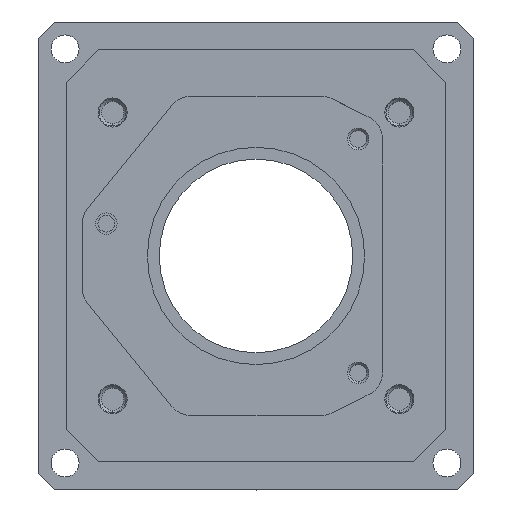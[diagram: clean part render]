
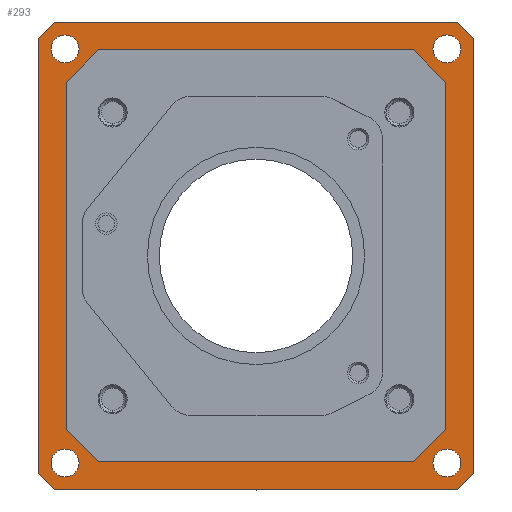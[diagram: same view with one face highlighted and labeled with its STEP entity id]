
A CAD part, top view. The second image highlights one B-rep face of the part: STEP entity #293.
In plain terms, the highlighted planar face has unit normal (0, 0, 1).
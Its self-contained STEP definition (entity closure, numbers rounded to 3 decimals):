
#190=FACE_BOUND('',#643,.F.);
#191=FACE_BOUND('',#644,.F.);
#192=FACE_BOUND('',#645,.F.);
#193=FACE_BOUND('',#646,.F.);
#194=FACE_BOUND('',#647,.F.);
#227=PLANE('',#3051);
#293=ADVANCED_FACE('',(#190,#191,#192,#193,#194,#468),#227,.T.);
#468=FACE_OUTER_BOUND('',#648,.F.);
#643=EDGE_LOOP('',(#866,#867));
#644=EDGE_LOOP('',(#868,#869));
#645=EDGE_LOOP('',(#870,#871));
#646=EDGE_LOOP('',(#872,#873));
#647=EDGE_LOOP('',(#874,#875,#876,#877,#878,#879,#880,#881));
#648=EDGE_LOOP('',(#882,#883,#884,#885,#886,#887,#888,#889));
#866=ORIENTED_EDGE('',*,*,#2274,.T.);
#867=ORIENTED_EDGE('',*,*,#2275,.T.);
#868=ORIENTED_EDGE('',*,*,#2270,.T.);
#869=ORIENTED_EDGE('',*,*,#2271,.T.);
#870=ORIENTED_EDGE('',*,*,#2268,.T.);
#871=ORIENTED_EDGE('',*,*,#2269,.T.);
#872=ORIENTED_EDGE('',*,*,#2272,.T.);
#873=ORIENTED_EDGE('',*,*,#2273,.T.);
#874=ORIENTED_EDGE('',*,*,#2284,.T.);
#875=ORIENTED_EDGE('',*,*,#2283,.T.);
#876=ORIENTED_EDGE('',*,*,#2282,.T.);
#877=ORIENTED_EDGE('',*,*,#2281,.T.);
#878=ORIENTED_EDGE('',*,*,#2280,.T.);
#879=ORIENTED_EDGE('',*,*,#2279,.T.);
#880=ORIENTED_EDGE('',*,*,#2278,.T.);
#881=ORIENTED_EDGE('',*,*,#2285,.T.);
#882=ORIENTED_EDGE('',*,*,#2263,.F.);
#883=ORIENTED_EDGE('',*,*,#2264,.T.);
#884=ORIENTED_EDGE('',*,*,#2261,.F.);
#885=ORIENTED_EDGE('',*,*,#2265,.T.);
#886=ORIENTED_EDGE('',*,*,#2262,.F.);
#887=ORIENTED_EDGE('',*,*,#2266,.T.);
#888=ORIENTED_EDGE('',*,*,#2260,.F.);
#889=ORIENTED_EDGE('',*,*,#2267,.T.);
#1660=LINE('',#4489,#1864);
#1661=LINE('',#4490,#1865);
#1662=LINE('',#4491,#1866);
#1663=LINE('',#4492,#1867);
#1664=LINE('',#4493,#1868);
#1665=LINE('',#4494,#1869);
#1666=LINE('',#4495,#1870);
#1667=LINE('',#4496,#1871);
#1668=LINE('',#4507,#1872);
#1669=LINE('',#4508,#1873);
#1670=LINE('',#4509,#1874);
#1671=LINE('',#4510,#1875);
#1672=LINE('',#4511,#1876);
#1673=LINE('',#4512,#1877);
#1674=LINE('',#4513,#1878);
#1675=LINE('',#4514,#1879);
#1864=VECTOR('',#3297,40.5);
#1865=VECTOR('',#3298,40.5);
#1866=VECTOR('',#3299,37.5);
#1867=VECTOR('',#3300,37.5);
#1868=VECTOR('',#3301,2.121);
#1869=VECTOR('',#3302,2.121);
#1870=VECTOR('',#3303,2.121);
#1871=VECTOR('',#3304,2.121);
#1872=VECTOR('',#3325,4.243);
#1873=VECTOR('',#3326,29.3);
#1874=VECTOR('',#3327,4.243);
#1875=VECTOR('',#3328,32.3);
#1876=VECTOR('',#3329,4.243);
#1877=VECTOR('',#3330,29.3);
#1878=VECTOR('',#3331,4.243);
#1879=VECTOR('',#3332,32.3);
#2071=CIRCLE('',#2929,1.3);
#2072=CIRCLE('',#2930,1.3);
#2073=CIRCLE('',#2931,1.3);
#2074=CIRCLE('',#2932,1.3);
#2075=CIRCLE('',#2933,1.3);
#2076=CIRCLE('',#2934,1.3);
#2077=CIRCLE('',#2935,1.3);
#2078=CIRCLE('',#2936,1.3);
#2260=EDGE_CURVE('',#2855,#2854,#1660,.T.);
#2261=EDGE_CURVE('',#2853,#2852,#1661,.T.);
#2262=EDGE_CURVE('',#2851,#2850,#1662,.T.);
#2263=EDGE_CURVE('',#2849,#2848,#1663,.T.);
#2264=EDGE_CURVE('',#2849,#2852,#1664,.T.);
#2265=EDGE_CURVE('',#2853,#2850,#1665,.T.);
#2266=EDGE_CURVE('',#2851,#2854,#1666,.T.);
#2267=EDGE_CURVE('',#2855,#2848,#1667,.T.);
#2268=EDGE_CURVE('',#2847,#2846,#2071,.T.);
#2269=EDGE_CURVE('',#2846,#2847,#2072,.T.);
#2270=EDGE_CURVE('',#2845,#2844,#2073,.T.);
#2271=EDGE_CURVE('',#2844,#2845,#2074,.T.);
#2272=EDGE_CURVE('',#2843,#2842,#2075,.T.);
#2273=EDGE_CURVE('',#2842,#2843,#2076,.T.);
#2274=EDGE_CURVE('',#2841,#2840,#2077,.T.);
#2275=EDGE_CURVE('',#2840,#2841,#2078,.T.);
#2278=EDGE_CURVE('',#2837,#2836,#1668,.T.);
#2279=EDGE_CURVE('',#2835,#2837,#1669,.T.);
#2280=EDGE_CURVE('',#2834,#2835,#1670,.T.);
#2281=EDGE_CURVE('',#2833,#2834,#1671,.T.);
#2282=EDGE_CURVE('',#2832,#2833,#1672,.T.);
#2283=EDGE_CURVE('',#2831,#2832,#1673,.T.);
#2284=EDGE_CURVE('',#2830,#2831,#1674,.T.);
#2285=EDGE_CURVE('',#2836,#2830,#1675,.T.);
#2830=VERTEX_POINT('',#4384);
#2831=VERTEX_POINT('',#4385);
#2832=VERTEX_POINT('',#4386);
#2833=VERTEX_POINT('',#4387);
#2834=VERTEX_POINT('',#4388);
#2835=VERTEX_POINT('',#4389);
#2836=VERTEX_POINT('',#4390);
#2837=VERTEX_POINT('',#4391);
#2840=VERTEX_POINT('',#4394);
#2841=VERTEX_POINT('',#4395);
#2842=VERTEX_POINT('',#4396);
#2843=VERTEX_POINT('',#4397);
#2844=VERTEX_POINT('',#4398);
#2845=VERTEX_POINT('',#4399);
#2846=VERTEX_POINT('',#4400);
#2847=VERTEX_POINT('',#4401);
#2848=VERTEX_POINT('',#4402);
#2849=VERTEX_POINT('',#4403);
#2850=VERTEX_POINT('',#4404);
#2851=VERTEX_POINT('',#4405);
#2852=VERTEX_POINT('',#4406);
#2853=VERTEX_POINT('',#4407);
#2854=VERTEX_POINT('',#4408);
#2855=VERTEX_POINT('',#4409);
#2929=AXIS2_PLACEMENT_3D('',#4497,#3305,#3306);
#2930=AXIS2_PLACEMENT_3D('',#4498,#3307,#3308);
#2931=AXIS2_PLACEMENT_3D('',#4499,#3309,#3310);
#2932=AXIS2_PLACEMENT_3D('',#4500,#3311,#3312);
#2933=AXIS2_PLACEMENT_3D('',#4501,#3313,#3314);
#2934=AXIS2_PLACEMENT_3D('',#4502,#3315,#3316);
#2935=AXIS2_PLACEMENT_3D('',#4503,#3317,#3318);
#2936=AXIS2_PLACEMENT_3D('',#4504,#3319,#3320);
#3051=AXIS2_PLACEMENT_3D('',#4839,#3705,#3706);
#3297=DIRECTION('',(0.,1.,0.));
#3298=DIRECTION('',(0.,-1.,0.));
#3299=DIRECTION('',(-1.,0.,0.));
#3300=DIRECTION('',(1.,0.,0.));
#3301=DIRECTION('',(-0.707,0.707,0.));
#3302=DIRECTION('',(0.707,0.707,0.));
#3303=DIRECTION('',(0.707,-0.707,0.));
#3304=DIRECTION('',(-0.707,-0.707,0.));
#3305=DIRECTION('',(0.,0.,1.));
#3306=DIRECTION('',(0.,1.,0.));
#3307=DIRECTION('',(0.,0.,1.));
#3308=DIRECTION('',(0.,-1.,0.));
#3309=DIRECTION('',(0.,0.,1.));
#3310=DIRECTION('',(1.,0.,0.));
#3311=DIRECTION('',(0.,0.,1.));
#3312=DIRECTION('',(-1.,0.,0.));
#3313=DIRECTION('',(0.,0.,1.));
#3314=DIRECTION('',(-1.,0.,0.));
#3315=DIRECTION('',(0.,0.,1.));
#3316=DIRECTION('',(1.,0.,0.));
#3317=DIRECTION('',(0.,0.,1.));
#3318=DIRECTION('',(0.,-1.,0.));
#3319=DIRECTION('',(0.,0.,1.));
#3320=DIRECTION('',(0.,1.,0.));
#3325=DIRECTION('',(0.707,0.707,0.));
#3326=DIRECTION('',(1.,0.,0.));
#3327=DIRECTION('',(0.707,-0.707,0.));
#3328=DIRECTION('',(0.,-1.,0.));
#3329=DIRECTION('',(-0.707,-0.707,0.));
#3330=DIRECTION('',(-1.,0.,0.));
#3331=DIRECTION('',(-0.707,0.707,0.));
#3332=DIRECTION('',(0.,1.,0.));
#3705=DIRECTION('',(0.,0.,1.));
#3706=DIRECTION('',(-1.,0.,0.));
#4384=CARTESIAN_POINT('',(67.65,16.15,-66.95));
#4385=CARTESIAN_POINT('',(64.65,19.15,-66.95));
#4386=CARTESIAN_POINT('',(35.35,19.15,-66.95));
#4387=CARTESIAN_POINT('',(32.35,16.15,-66.95));
#4388=CARTESIAN_POINT('',(32.35,-16.15,-66.95));
#4389=CARTESIAN_POINT('',(35.35,-19.15,-66.95));
#4390=CARTESIAN_POINT('',(67.65,-16.15,-66.95));
#4391=CARTESIAN_POINT('',(64.65,-19.15,-66.95));
#4394=CARTESIAN_POINT('',(32.25,-17.95,-66.95));
#4395=CARTESIAN_POINT('',(32.25,-20.55,-66.95));
#4396=CARTESIAN_POINT('',(33.55,19.25,-66.95));
#4397=CARTESIAN_POINT('',(30.95,19.25,-66.95));
#4398=CARTESIAN_POINT('',(66.45,-19.25,-66.95));
#4399=CARTESIAN_POINT('',(69.05,-19.25,-66.95));
#4400=CARTESIAN_POINT('',(67.75,17.95,-66.95));
#4401=CARTESIAN_POINT('',(67.75,20.55,-66.95));
#4402=CARTESIAN_POINT('',(68.75,-21.75,-66.95));
#4403=CARTESIAN_POINT('',(31.25,-21.75,-66.95));
#4404=CARTESIAN_POINT('',(31.25,21.75,-66.95));
#4405=CARTESIAN_POINT('',(68.75,21.75,-66.95));
#4406=CARTESIAN_POINT('',(29.75,-20.25,-66.95));
#4407=CARTESIAN_POINT('',(29.75,20.25,-66.95));
#4408=CARTESIAN_POINT('',(70.25,20.25,-66.95));
#4409=CARTESIAN_POINT('',(70.25,-20.25,-66.95));
#4489=CARTESIAN_POINT('',(70.25,-20.25,-66.95));
#4490=CARTESIAN_POINT('',(29.75,20.25,-66.95));
#4491=CARTESIAN_POINT('',(68.75,21.75,-66.95));
#4492=CARTESIAN_POINT('',(31.25,-21.75,-66.95));
#4493=CARTESIAN_POINT('',(31.25,-21.75,-66.95));
#4494=CARTESIAN_POINT('',(29.75,20.25,-66.95));
#4495=CARTESIAN_POINT('',(68.75,21.75,-66.95));
#4496=CARTESIAN_POINT('',(70.25,-20.25,-66.95));
#4497=CARTESIAN_POINT('',(67.75,19.25,-66.95));
#4498=CARTESIAN_POINT('',(67.75,19.25,-66.95));
#4499=CARTESIAN_POINT('',(67.75,-19.25,-66.95));
#4500=CARTESIAN_POINT('',(67.75,-19.25,-66.95));
#4501=CARTESIAN_POINT('',(32.25,19.25,-66.95));
#4502=CARTESIAN_POINT('',(32.25,19.25,-66.95));
#4503=CARTESIAN_POINT('',(32.25,-19.25,-66.95));
#4504=CARTESIAN_POINT('',(32.25,-19.25,-66.95));
#4507=CARTESIAN_POINT('',(64.65,-19.15,-66.95));
#4508=CARTESIAN_POINT('',(35.35,-19.15,-66.95));
#4509=CARTESIAN_POINT('',(32.35,-16.15,-66.95));
#4510=CARTESIAN_POINT('',(32.35,16.15,-66.95));
#4511=CARTESIAN_POINT('',(35.35,19.15,-66.95));
#4512=CARTESIAN_POINT('',(64.65,19.15,-66.95));
#4513=CARTESIAN_POINT('',(67.65,16.15,-66.95));
#4514=CARTESIAN_POINT('',(67.65,-16.15,-66.95));
#4839=CARTESIAN_POINT('',(87.625,37.625,-66.95));
